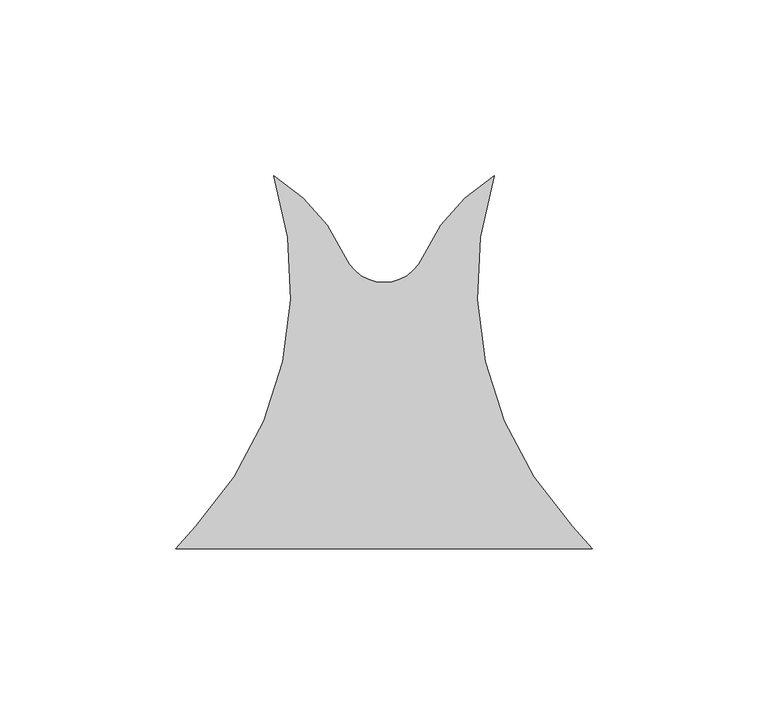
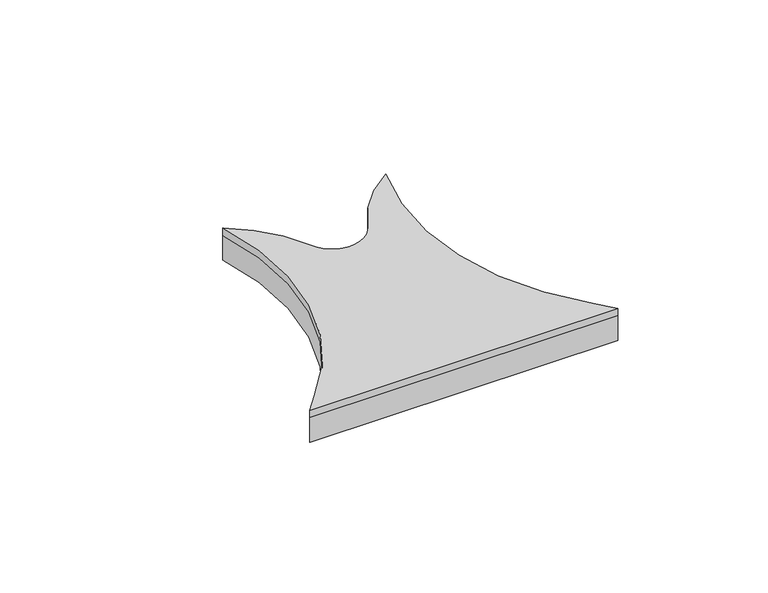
"""IFC4 building model written with IfcOpenShell, lengths in millimetres: proxy geometry, FilzFelt_Fish_Block : Fish Block."""

import ifcopenshell
import ifcopenshell.guid

model = None  # the IFC model being written
_history = None  # IfcOwnerHistory: only IFC2X3 demands one
_inside = {}  # id of a spatial element -> (the spatial element, [elements in it])
_under = {}  # id of a project, library or spatial element -> (it, [spatial elements below it])
_declared = {}  # id of a project -> (the project, [libraries it declares])
_typed = {}  # id of a type object -> (the type object, [elements of that type])
_made_of = {}  # id of a material, layer set ... -> (it, [elements and type objects made of it])


def new_model(schema):
    """Start an empty IFC model of exactly this schema.

    Asked for "IFC4X3", IfcOpenShell would pick the latest addendum, in which some entities
    have other attributes; the version numbers below select the first issue.
    IFC2X3 requires an IfcOwnerHistory on every rooted entity: one is made here for all.
    """
    global model, _history
    if schema == "IFC4X3":
        model = ifcopenshell.file(schema_version=(4, 3, 0, 0))
    else:
        model = ifcopenshell.file(schema=schema)
    _inside.clear()
    _under.clear()
    _declared.clear()
    _typed.clear()
    _made_of.clear()
    _history = None
    if model.schema == "IFC2X3":
        org = make("IfcOrganization", Name="unknown")
        user = make(
            "IfcPersonAndOrganization",
            ThePerson=make("IfcPerson", FamilyName="unknown"),
            TheOrganization=org,
        )
        app = make(
            "IfcApplication",
            ApplicationDeveloper=org,
            Version="unknown",
            ApplicationFullName="unknown",
            ApplicationIdentifier="unknown",
        )
        _history = make(
            "IfcOwnerHistory",
            OwningUser=user,
            OwningApplication=app,
            ChangeAction="ADDED",
            CreationDate=0,
        )
    return model


def make(cls, **values):
    """One entity of the class cls with the attributes given. An attribute that is None is left unset."""
    return model.create_entity(
        cls, **{name: value for name, value in values.items() if value is not None}
    )


def rooted(cls, **values):
    """An entity with a GlobalId (a new one), such as an element, a storey or a relation."""
    return make(cls, GlobalId=ifcopenshell.guid.new(), OwnerHistory=_history, **values)


def si_unit(unit_type, name, prefix=None):
    """IfcSIUnit, for example si_unit("LENGTHUNIT", "METRE", prefix="MILLI")."""
    return make("IfcSIUnit", UnitType=unit_type, Prefix=prefix, Name=name)


def assignment(units):
    """IfcUnitAssignment: the units of a project."""
    return None if units is None else make("IfcUnitAssignment", Units=units)


def point(xyz):
    """IfcCartesianPoint."""
    return None if xyz is None else make("IfcCartesianPoint", Coordinates=xyz)


def direction(xyz):
    """IfcDirection."""
    return None if xyz is None else make("IfcDirection", DirectionRatios=xyz)


def frame(location, z_axis=None, x_axis=None):
    """IfcAxis2Placement3D, a coordinate frame: its origin and axes. An axis left out is left unset."""
    return make(
        "IfcAxis2Placement3D",
        Location=point(location),
        Axis=direction(z_axis),
        RefDirection=direction(x_axis),
    )


def frame_2d(location, x_axis=None):
    """IfcAxis2Placement2D, a coordinate frame in the plane: its origin and x axis."""
    return make(
        "IfcAxis2Placement2D", Location=point(location), RefDirection=direction(x_axis)
    )


def origin():
    """The frame at (0, 0, 0) with its axes left unset."""
    return frame((0.0, 0.0, 0.0))


def origin_with_axes():
    """The frame at (0, 0, 0) with the z axis (0, 0, 1) and the x axis (1, 0, 0) written out."""
    return frame((0.0, 0.0, 0.0), z_axis=(0.0, 0.0, 1.0), x_axis=(1.0, 0.0, 0.0))


def place(relative_to, where):
    """IfcLocalPlacement: puts the frame where relative to a parent placement (None: the world)."""
    return make(
        "IfcLocalPlacement", PlacementRelTo=relative_to, RelativePlacement=where
    )


def context(
    kind, dimensions, precision=None, world=None, true_north=None, identifier=None
):
    """IfcGeometricRepresentationContext, for example the 3D "Model" context."""
    return make(
        "IfcGeometricRepresentationContext",
        ContextIdentifier=identifier,
        ContextType=kind,
        CoordinateSpaceDimension=dimensions,
        Precision=precision,
        WorldCoordinateSystem=world,
        TrueNorth=true_north,
    )


def project(units=None, contexts=None):
    """IfcProject with its units and contexts."""
    return rooted(
        "IfcProject",
        Name="project",
        RepresentationContexts=contexts,
        UnitsInContext=assignment(units),
    )


def spatial(cls, under=None, at=None, **own):
    """A site, building, storey or space (cls), placed at a placement, below another one or the project."""
    s = rooted(cls, ObjectPlacement=at, **own)
    if under is not None:
        _under.setdefault(under.id(), (under, []))[1].append(s)
    return s


def polyline(points):
    """IfcPolyline through the points."""
    return make("IfcPolyline", Points=[point(p) for p in points])


def circle_curve(where, radius):
    """IfcCircle in the frame where."""
    return make("IfcCircle", Position=where, Radius=radius)


def trimmed(basis, trim1, trim2, sense, master):
    """IfcTrimmedCurve: the piece of a basis curve between two trims."""
    return make(
        "IfcTrimmedCurve",
        BasisCurve=basis,
        Trim1=trim1,
        Trim2=trim2,
        SenseAgreement=sense,
        MasterRepresentation=master,
    )


def segment(curve, same_sense, transition):
    """IfcCompositeCurveSegment."""
    return make(
        "IfcCompositeCurveSegment",
        Transition=transition,
        SameSense=same_sense,
        ParentCurve=curve,
    )


def composite_curve(segments, self_intersect=None):
    """IfcCompositeCurve: segments joined end to end."""
    return make("IfcCompositeCurve", Segments=segments, SelfIntersect=self_intersect)


def outline(outer, holes=None, kind="AREA"):
    """IfcArbitraryClosedProfileDef: a profile drawn as a closed curve; with holes, ...WithVoids."""
    if holes is None:
        return make("IfcArbitraryClosedProfileDef", ProfileType=kind, OuterCurve=outer)
    return make(
        "IfcArbitraryProfileDefWithVoids",
        ProfileType=kind,
        OuterCurve=outer,
        InnerCurves=holes,
    )


def extrude(swept, where, along, depth):
    """IfcExtrudedAreaSolid: the profile swept, set in the frame where, extruded along a direction by depth."""
    return make(
        "IfcExtrudedAreaSolid",
        SweptArea=swept,
        Position=where,
        ExtrudedDirection=direction(along),
        Depth=depth,
    )


def shape(context_of_items, identifier, shape_type, items):
    """IfcShapeRepresentation: the items that make up one representation, for example the "Body"."""
    return make(
        "IfcShapeRepresentation",
        ContextOfItems=context_of_items,
        RepresentationIdentifier=identifier,
        RepresentationType=shape_type,
        Items=items,
    )


def source(mapping_origin, context_of_items, identifier, shape_type, items):
    """IfcRepresentationMap: a shape defined once, which mapped items show again and again."""
    return make(
        "IfcRepresentationMap",
        MappingOrigin=mapping_origin,
        MappedRepresentation=shape(context_of_items, identifier, shape_type, items),
    )


def transform(
    local_origin,
    x_axis=None,
    y_axis=None,
    z_axis=None,
    scale=None,
    scale2=None,
    scale3=None,
    uniform=True,
):
    """IfcCartesianTransformationOperator3D, or its non-uniform kind. x_axis, y_axis, z_axis: its Axis1, 2, 3."""
    if uniform:
        return make(
            "IfcCartesianTransformationOperator3D",
            Axis1=direction(x_axis),
            Axis2=direction(y_axis),
            LocalOrigin=point(local_origin),
            Scale=scale,
            Axis3=direction(z_axis),
        )
    return make(
        "IfcCartesianTransformationOperator3DnonUniform",
        Axis1=direction(x_axis),
        Axis2=direction(y_axis),
        LocalOrigin=point(local_origin),
        Scale=scale,
        Axis3=direction(z_axis),
        Scale2=scale2,
        Scale3=scale3,
    )


def mapped(mapping_source, mapping_target):
    """IfcMappedItem: shows the shape of a source again, moved by a transform."""
    return make(
        "IfcMappedItem", MappingSource=mapping_source, MappingTarget=mapping_target
    )


def made_of(thing, what):
    """Note that an element or type object is made of a material, layer set ...; save() writes the relation."""
    if what is not None:
        _made_of.setdefault(what.id(), (what, []))[1].append(thing)
    return thing


def element(
    cls,
    number,
    at=None,
    inside=None,
    cuts=None,
    type_object=None,
    material=None,
    context=None,
    identifier="Body",
    shape_type=None,
    held_by="IfcProductDefinitionShape",
    body=None,
    shapes=None,
    **own,
):
    """One element of the class cls, such as IfcWall. Its Tag is "e" and its number.

    at: its placement. inside: the storey or other place that contains it. cuts: it is an
    opening in that element (IfcRelVoidsElement). A single representation is given by context,
    identifier, shape_type and body (its items); several are given by shapes. held_by: the class
    of the entity that holds the representations. save() writes the other relations.
    """
    e = rooted(cls, Tag="e%d" % number, ObjectPlacement=at, **own)
    if body is not None:
        shapes = [shape(context, identifier, shape_type, body)]
    if shapes is not None:
        e.Representation = make(held_by, Representations=shapes)
    if inside is not None:
        _inside.setdefault(inside.id(), (inside, []))[1].append(e)
    if cuts is not None:
        rooted(
            "IfcRelVoidsElement", RelatingBuildingElement=cuts, RelatedOpeningElement=e
        )
    if type_object is not None:
        _typed.setdefault(type_object.id(), (type_object, []))[1].append(e)
    return made_of(e, material)


def aggregate(whole, parts):
    """IfcRelAggregates: a whole, such as a stair, and the parts it consists of."""
    return rooted("IfcRelAggregates", RelatingObject=whole, RelatedObjects=parts)


def save(model, path):
    """Write the relations noted so far, then the file.

    IfcRelAggregates (storeys below a building ...), IfcRelContainedInSpatialStructure (elements
    in a storey), IfcRelDefinesByType, IfcRelAssociatesMaterial and IfcRelDeclares: one each for
    every whole, place, type object, material and project.
    """
    for whole, parts in _under.values():
        aggregate(whole, parts)
    for where, things in _inside.values():
        rooted(
            "IfcRelContainedInSpatialStructure",
            RelatedElements=things,
            RelatingStructure=where,
        )
    for kind, things in _typed.values():
        rooted("IfcRelDefinesByType", RelatedObjects=things, RelatingType=kind)
    for what, things in _made_of.values():
        rooted("IfcRelAssociatesMaterial", RelatedObjects=things, RelatingMaterial=what)
    for by, libraries in _declared.values():
        rooted("IfcRelDeclares", RelatingContext=by, RelatedDefinitions=libraries)
    model.write(path)


def specialty_equipment_dfb9e28b(model_context):
    return source(origin(), model_context, "Body", "SweptSolid", [
        extrude(outline(composite_curve([segment(trimmed(circle_curve(frame_2d((-19.5151403, 0.0)), 100.2293629), [point((53.5486457, 68.6120133))], [point((59.1130093, 62.1573751))], False, "CARTESIAN"), True, "CONTINUOUS"), segment(polyline([(59.1130093, 62.1573751), (-59.1130093, 62.1573751)]), True, "CONTINUOUS"), segment(trimmed(circle_curve(frame_2d((19.5151403, 0.0)), 100.2293629), [point((-59.1130093, 62.1573751))], [point((-53.5486457, 68.6120133))], False, "CARTESIAN"), True, "CONTINUOUS"), segment(trimmed(circle_curve(frame_2d((-126.6124317, 137.2240266)), 100.2293629), [point((-53.5486457, 68.6120133))], [point((-31.2619065, 168.1141956))], True, "CARTESIAN"), True, "CONTINUOUS"), segment(trimmed(circle_curve(frame_2d((-57.9263497, 124.2921115)), 51.2968574), [point((-31.2619065, 168.1141956))], [point((-11.0103348, 145.0347036))], False, "CARTESIAN"), True, "CONTINUOUS"), segment(trimmed(circle_curve(frame_2d((0.0, 149.9026124)), 12.0384388), [point((-11.0103348, 145.0347036))], [point((11.0103348, 145.0347036))], True, "CARTESIAN"), True, "CONTINUOUS"), segment(trimmed(circle_curve(frame_2d((57.9263497, 124.2921115)), 51.2968574), [point((11.0103348, 145.0347036))], [point((31.2619065, 168.1141956))], False, "CARTESIAN"), True, "CONTINUOUS"), segment(trimmed(circle_curve(frame_2d((126.6124317, 137.2240266)), 100.2293629), [point((31.2619065, 168.1141956))], [point((53.5486457, 68.6120133))], True, "CARTESIAN"), True, "CONTINUOUS")], self_intersect=False)), frame((0.0, 0.0, 10.0210937), z_axis=(0.0, 0.0, 1.0), x_axis=(1.0, 0.0, 0.0)), (0.0, 0.0, 1.0), 2.9765625),
        extrude(outline(composite_curve([segment(trimmed(circle_curve(frame_2d((126.6124317, 137.2240266)), 100.2293629), [point((31.2619065, 168.1141956))], [point((53.5486457, 68.6120133))], True, "CARTESIAN"), True, "CONTINUOUS"), segment(trimmed(circle_curve(frame_2d((-19.5151403, 0.0)), 100.2293629), [point((53.5486457, 68.6120133))], [point((59.1130093, 62.1573751))], False, "CARTESIAN"), True, "CONTINUOUS"), segment(polyline([(59.1130093, 62.1573751), (-59.1130093, 62.1573751)]), True, "CONTINUOUS"), segment(trimmed(circle_curve(frame_2d((19.5151403, 0.0)), 100.2293629), [point((-59.1130093, 62.1573751))], [point((-53.5486457, 68.6120133))], False, "CARTESIAN"), True, "CONTINUOUS"), segment(trimmed(circle_curve(frame_2d((-126.6124317, 137.2240266)), 100.2293629), [point((-53.5486457, 68.6120133))], [point((-31.2619065, 168.1141956))], True, "CARTESIAN"), True, "CONTINUOUS"), segment(trimmed(circle_curve(frame_2d((-57.9263497, 124.2921115)), 51.2968574), [point((-31.2619065, 168.1141956))], [point((-11.0103348, 145.0347036))], False, "CARTESIAN"), True, "CONTINUOUS"), segment(trimmed(circle_curve(frame_2d((0.0, 149.9026124)), 12.0384388), [point((-11.0103348, 145.0347036))], [point((11.0103348, 145.0347036))], True, "CARTESIAN"), True, "CONTINUOUS"), segment(trimmed(circle_curve(frame_2d((57.9263497, 124.2921115)), 51.2968574), [point((11.0103348, 145.0347036))], [point((31.2619065, 168.1141956))], False, "CARTESIAN"), True, "CONTINUOUS")], self_intersect=False)), origin_with_axes(), (0.0, 0.0, 1.0), 10.0210938),
    ])


if __name__ == "__main__":
    model = new_model("IFC4")
    model_context = context("Model", 3, world=origin())
    ifc_project = project(units=[si_unit("LENGTHUNIT", "METRE", prefix="MILLI")], contexts=[model_context])
    site = spatial("IfcSite", under=ifc_project)
    building = spatial("IfcBuilding", under=site)
    placement = place(None, origin())
    specialty_equipment_shape = specialty_equipment_dfb9e28b(model_context)
    element("IfcBuildingElementProxy", 1, Name="FilzFelt_Fish_Block : Fish Block", ObjectType="FilzFelt_Fish_Block : Fish Block", at=placement, inside=building, context=model_context, shape_type="MappedRepresentation", body=[
        mapped(specialty_equipment_shape, transform((0.0, 0.0, 0.0), x_axis=(1.0, 0.0, 0.0), y_axis=(0.0, 1.0, 0.0), z_axis=(0.0, 0.0, 1.0))),
    ])
    save(model, "model.ifc")
